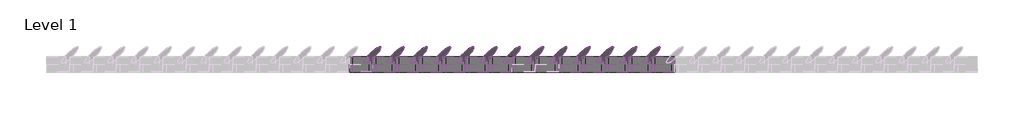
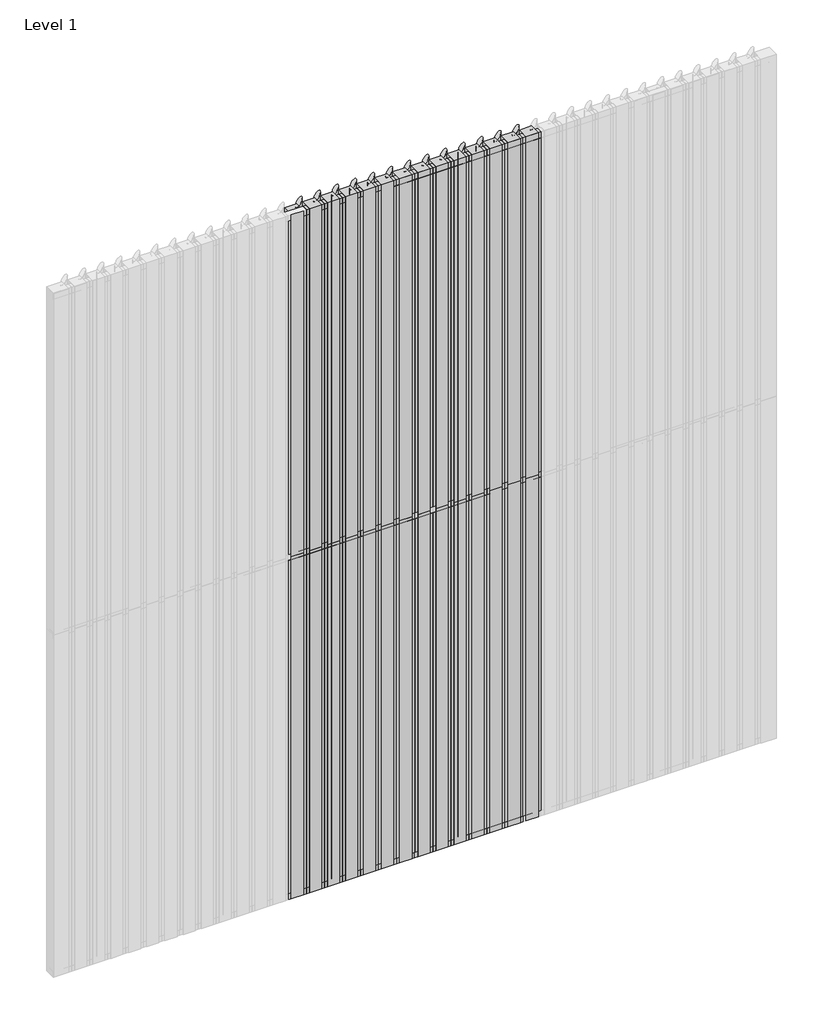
# One storey, part 2 of 3: 63 members, 56 plates.
"""IFC4 building model written with IfcOpenShell, lengths in millimetres."""

from ifc_helpers import new_model, si_unit, origin, place, context, project, spatial, transform, mapped, element, save
from components import rectangular_mullion_37c1fa86, rectangular_mullion_6265e8b1, rectangular_mullion_64cc6fdd, rectangular_mullion_eb4a5411, empty_system_panel_empty_f8daaecc, empty_system_panel_empty_64907904

model = new_model("IFC4")

# Units and contexts
model_context = context("Model", 3, world=origin())
ifc_project = project(units=[si_unit("LENGTHUNIT", "METRE", prefix="MILLI")], contexts=[model_context])

# Site, building, storey
site = spatial("IfcSite", under=ifc_project)
building = spatial("IfcBuilding", under=site)
storey = spatial("IfcBuildingStorey", under=building, Name="Level 1", Elevation=0.0)

# Members
placement = place(None, origin())
rectangular_mullion_shape = rectangular_mullion_37c1fa86(model_context)
element("IfcMember", 1, ObjectType="Rectangular Mullion : RSen_21_CWM_blade - 150 ellips - 45°_gen_duco projects", at=placement, inside=storey, context=model_context, shape_type="MappedRepresentation", body=[
    mapped(rectangular_mullion_shape, transform((3900.0, 3000.0, 0.0), x_axis=(-1.0, 0.0, 0.0), y_axis=(0.0, 1.0, 0.0), z_axis=(0.0, 0.0, -1.0))),
])
element("IfcMember", 2, ObjectType="Rectangular Mullion : RSen_21_CWM_blade - 150 ellips - 45°_gen_duco projects", at=placement, inside=storey, context=model_context, shape_type="MappedRepresentation", body=[
    mapped(rectangular_mullion_shape, transform((3750.0, 3000.0, 0.0), x_axis=(-1.0, 0.0, 0.0), y_axis=(0.0, 1.0, 0.0), z_axis=(0.0, 0.0, -1.0))),
])
element("IfcMember", 3, ObjectType="Rectangular Mullion : RSen_21_CWM_blade - 150 ellips - 45°_gen_duco projects", at=placement, inside=storey, context=model_context, shape_type="MappedRepresentation", body=[
    mapped(rectangular_mullion_shape, transform((3600.0, 3000.0, 0.0), x_axis=(-1.0, 0.0, 0.0), y_axis=(0.0, 1.0, 0.0), z_axis=(0.0, 0.0, -1.0))),
])
element("IfcMember", 4, ObjectType="Rectangular Mullion : RSen_21_CWM_blade - 150 ellips - 45°_gen_duco projects", at=placement, inside=storey, context=model_context, shape_type="MappedRepresentation", body=[
    mapped(rectangular_mullion_shape, transform((3450.0, 3000.0, 0.0), x_axis=(-1.0, 0.0, 0.0), y_axis=(0.0, 1.0, 0.0), z_axis=(0.0, 0.0, -1.0))),
])
element("IfcMember", 5, ObjectType="Rectangular Mullion : RSen_21_CWM_blade - 150 ellips - 45°_gen_duco projects", at=placement, inside=storey, context=model_context, shape_type="MappedRepresentation", body=[
    mapped(rectangular_mullion_shape, transform((3300.0, 3000.0, 0.0), x_axis=(-1.0, 0.0, 0.0), y_axis=(0.0, 1.0, 0.0), z_axis=(0.0, 0.0, -1.0))),
])
element("IfcMember", 6, ObjectType="Rectangular Mullion : RSen_21_CWM_blade - 150 ellips - 45°_gen_duco projects", at=placement, inside=storey, context=model_context, shape_type="MappedRepresentation", body=[
    mapped(rectangular_mullion_shape, transform((3150.0, 3000.0, 0.0), x_axis=(-1.0, 0.0, 0.0), y_axis=(0.0, 1.0, 0.0), z_axis=(0.0, 0.0, -1.0))),
])
element("IfcMember", 7, ObjectType="Rectangular Mullion : RSen_21_CWM_blade - 150 ellips - 45°_gen_duco projects", at=placement, inside=storey, context=model_context, shape_type="MappedRepresentation", body=[
    mapped(rectangular_mullion_shape, transform((3000.0, 3000.0, 0.0), x_axis=(-1.0, 0.0, 0.0), y_axis=(0.0, 1.0, 0.0), z_axis=(0.0, 0.0, -1.0))),
])
element("IfcMember", 8, ObjectType="Rectangular Mullion : RSen_21_CWM_blade - 150 ellips - 45°_gen_duco projects", at=placement, inside=storey, context=model_context, shape_type="MappedRepresentation", body=[
    mapped(rectangular_mullion_shape, transform((2850.0, 3000.0, 0.0), x_axis=(-1.0, 0.0, 0.0), y_axis=(0.0, 1.0, 0.0), z_axis=(0.0, 0.0, -1.0))),
])
element("IfcMember", 9, ObjectType="Rectangular Mullion : RSen_21_CWM_blade - 150 ellips - 45°_gen_duco projects", at=placement, inside=storey, context=model_context, shape_type="MappedRepresentation", body=[
    mapped(rectangular_mullion_shape, transform((2700.0, 3000.0, 0.0), x_axis=(-1.0, 0.0, 0.0), y_axis=(0.0, 1.0, 0.0), z_axis=(0.0, 0.0, -1.0))),
])
element("IfcMember", 10, ObjectType="Rectangular Mullion : RSen_21_CWM_blade - 150 ellips - 45°_gen_duco projects", at=placement, inside=storey, context=model_context, shape_type="MappedRepresentation", body=[
    mapped(rectangular_mullion_shape, transform((2550.0, 3000.0, 0.0), x_axis=(-1.0, 0.0, 0.0), y_axis=(0.0, 1.0, 0.0), z_axis=(0.0, 0.0, -1.0))),
])
element("IfcMember", 11, ObjectType="Rectangular Mullion : RSen_21_CWM_blade - 150 ellips - 45°_gen_duco projects", at=placement, inside=storey, context=model_context, shape_type="MappedRepresentation", body=[
    mapped(rectangular_mullion_shape, transform((2400.0, 3000.0, 0.0), x_axis=(-1.0, 0.0, 0.0), y_axis=(0.0, 1.0, 0.0), z_axis=(0.0, 0.0, -1.0))),
])
element("IfcMember", 12, ObjectType="Rectangular Mullion : RSen_21_CWM_blade - 150 ellips - 45°_gen_duco projects", at=placement, inside=storey, context=model_context, shape_type="MappedRepresentation", body=[
    mapped(rectangular_mullion_shape, transform((2250.0, 3000.0, 0.0), x_axis=(-1.0, 0.0, 0.0), y_axis=(0.0, 1.0, 0.0), z_axis=(0.0, 0.0, -1.0))),
])
element("IfcMember", 13, ObjectType="Rectangular Mullion : RSen_21_CWM_blade - 150 ellips - 45°_gen_duco projects", at=placement, inside=storey, context=model_context, shape_type="MappedRepresentation", body=[
    mapped(rectangular_mullion_shape, transform((2100.0, 3000.0, 0.0), x_axis=(-1.0, 0.0, 0.0), y_axis=(0.0, 1.0, 0.0), z_axis=(0.0, 0.0, -1.0))),
])
element("IfcMember", 14, ObjectType="Rectangular Mullion : RSen_21_CWM_blade - 150 ellips - 45°_gen_duco projects", at=placement, inside=storey, context=model_context, shape_type="MappedRepresentation", body=[
    mapped(rectangular_mullion_shape, transform((3900.0, 3000.0, 3000.0), x_axis=(-1.0, 0.0, 0.0), y_axis=(0.0, 1.0, 0.0), z_axis=(0.0, 0.0, -1.0))),
])
element("IfcMember", 15, ObjectType="Rectangular Mullion : RSen_21_CWM_blade - 150 ellips - 45°_gen_duco projects", at=placement, inside=storey, context=model_context, shape_type="MappedRepresentation", body=[
    mapped(rectangular_mullion_shape, transform((3750.0, 3000.0, 3000.0), x_axis=(-1.0, 0.0, 0.0), y_axis=(0.0, 1.0, 0.0), z_axis=(0.0, 0.0, -1.0))),
])
element("IfcMember", 16, ObjectType="Rectangular Mullion : RSen_21_CWM_blade - 150 ellips - 45°_gen_duco projects", at=placement, inside=storey, context=model_context, shape_type="MappedRepresentation", body=[
    mapped(rectangular_mullion_shape, transform((3600.0, 3000.0, 3000.0), x_axis=(-1.0, 0.0, 0.0), y_axis=(0.0, 1.0, 0.0), z_axis=(0.0, 0.0, -1.0))),
])
element("IfcMember", 17, ObjectType="Rectangular Mullion : RSen_21_CWM_blade - 150 ellips - 45°_gen_duco projects", at=placement, inside=storey, context=model_context, shape_type="MappedRepresentation", body=[
    mapped(rectangular_mullion_shape, transform((3450.0, 3000.0, 3000.0), x_axis=(-1.0, 0.0, 0.0), y_axis=(0.0, 1.0, 0.0), z_axis=(0.0, 0.0, -1.0))),
])
element("IfcMember", 18, ObjectType="Rectangular Mullion : RSen_21_CWM_blade - 150 ellips - 45°_gen_duco projects", at=placement, inside=storey, context=model_context, shape_type="MappedRepresentation", body=[
    mapped(rectangular_mullion_shape, transform((3300.0, 3000.0, 3000.0), x_axis=(-1.0, 0.0, 0.0), y_axis=(0.0, 1.0, 0.0), z_axis=(0.0, 0.0, -1.0))),
])
element("IfcMember", 19, ObjectType="Rectangular Mullion : RSen_21_CWM_blade - 150 ellips - 45°_gen_duco projects", at=placement, inside=storey, context=model_context, shape_type="MappedRepresentation", body=[
    mapped(rectangular_mullion_shape, transform((3150.0, 3000.0, 3000.0), x_axis=(-1.0, 0.0, 0.0), y_axis=(0.0, 1.0, 0.0), z_axis=(0.0, 0.0, -1.0))),
])
element("IfcMember", 20, ObjectType="Rectangular Mullion : RSen_21_CWM_blade - 150 ellips - 45°_gen_duco projects", at=placement, inside=storey, context=model_context, shape_type="MappedRepresentation", body=[
    mapped(rectangular_mullion_shape, transform((3000.0, 3000.0, 3000.0), x_axis=(-1.0, 0.0, 0.0), y_axis=(0.0, 1.0, 0.0), z_axis=(0.0, 0.0, -1.0))),
])
element("IfcMember", 21, ObjectType="Rectangular Mullion : RSen_21_CWM_blade - 150 ellips - 45°_gen_duco projects", at=placement, inside=storey, context=model_context, shape_type="MappedRepresentation", body=[
    mapped(rectangular_mullion_shape, transform((2850.0, 3000.0, 3000.0), x_axis=(-1.0, 0.0, 0.0), y_axis=(0.0, 1.0, 0.0), z_axis=(0.0, 0.0, -1.0))),
])
element("IfcMember", 22, ObjectType="Rectangular Mullion : RSen_21_CWM_blade - 150 ellips - 45°_gen_duco projects", at=placement, inside=storey, context=model_context, shape_type="MappedRepresentation", body=[
    mapped(rectangular_mullion_shape, transform((2700.0, 3000.0, 3000.0), x_axis=(-1.0, 0.0, 0.0), y_axis=(0.0, 1.0, 0.0), z_axis=(0.0, 0.0, -1.0))),
])
element("IfcMember", 23, ObjectType="Rectangular Mullion : RSen_21_CWM_blade - 150 ellips - 45°_gen_duco projects", at=placement, inside=storey, context=model_context, shape_type="MappedRepresentation", body=[
    mapped(rectangular_mullion_shape, transform((2550.0, 3000.0, 3000.0), x_axis=(-1.0, 0.0, 0.0), y_axis=(0.0, 1.0, 0.0), z_axis=(0.0, 0.0, -1.0))),
])
element("IfcMember", 24, ObjectType="Rectangular Mullion : RSen_21_CWM_blade - 150 ellips - 45°_gen_duco projects", at=placement, inside=storey, context=model_context, shape_type="MappedRepresentation", body=[
    mapped(rectangular_mullion_shape, transform((2400.0, 3000.0, 3000.0), x_axis=(-1.0, 0.0, 0.0), y_axis=(0.0, 1.0, 0.0), z_axis=(0.0, 0.0, -1.0))),
])
element("IfcMember", 25, ObjectType="Rectangular Mullion : RSen_21_CWM_blade - 150 ellips - 45°_gen_duco projects", at=placement, inside=storey, context=model_context, shape_type="MappedRepresentation", body=[
    mapped(rectangular_mullion_shape, transform((2250.0, 3000.0, 3000.0), x_axis=(-1.0, 0.0, 0.0), y_axis=(0.0, 1.0, 0.0), z_axis=(0.0, 0.0, -1.0))),
])
element("IfcMember", 26, ObjectType="Rectangular Mullion : RSen_21_CWM_blade - 150 ellips - 45°_gen_duco projects", at=placement, inside=storey, context=model_context, shape_type="MappedRepresentation", body=[
    mapped(rectangular_mullion_shape, transform((2100.0, 3000.0, 3000.0), x_axis=(-1.0, 0.0, 0.0), y_axis=(0.0, 1.0, 0.0), z_axis=(0.0, 0.0, -1.0))),
])
rectangular_mullion_2_shape = rectangular_mullion_6265e8b1(model_context)
element("IfcMember", 27, ObjectType="Rectangular Mullion : RSen_21_CWM_support profile 50x50 - left_gen_duco projects", at=placement, inside=storey, context=model_context, shape_type="MappedRepresentation", body=[
    mapped(rectangular_mullion_2_shape, transform((3900.0, 3000.0, 6000.0), x_axis=(0.0, 0.0, 1.0), y_axis=(0.0, 1.0, 0.0), z_axis=(-1.0, 0.0, 0.0))),
])
element("IfcMember", 28, ObjectType="Rectangular Mullion : RSen_21_CWM_support profile 50x50 - left_gen_duco projects", at=placement, inside=storey, context=model_context, shape_type="MappedRepresentation", body=[
    mapped(rectangular_mullion_2_shape, transform((3750.0, 3000.0, 6000.0), x_axis=(0.0, 0.0, 1.0), y_axis=(0.0, 1.0, 0.0), z_axis=(-1.0, 0.0, 0.0))),
])
element("IfcMember", 29, ObjectType="Rectangular Mullion : RSen_21_CWM_support profile 50x50 - left_gen_duco projects", at=placement, inside=storey, context=model_context, shape_type="MappedRepresentation", body=[
    mapped(rectangular_mullion_2_shape, transform((3600.0, 3000.0, 6000.0), x_axis=(0.0, 0.0, 1.0), y_axis=(0.0, 1.0, 0.0), z_axis=(-1.0, 0.0, 0.0))),
])
element("IfcMember", 30, ObjectType="Rectangular Mullion : RSen_21_CWM_support profile 50x50 - left_gen_duco projects", at=placement, inside=storey, context=model_context, shape_type="MappedRepresentation", body=[
    mapped(rectangular_mullion_2_shape, transform((3450.0, 3000.0, 6000.0), x_axis=(0.0, 0.0, 1.0), y_axis=(0.0, 1.0, 0.0), z_axis=(-1.0, 0.0, 0.0))),
])
element("IfcMember", 31, ObjectType="Rectangular Mullion : RSen_21_CWM_support profile 50x50 - left_gen_duco projects", at=placement, inside=storey, context=model_context, shape_type="MappedRepresentation", body=[
    mapped(rectangular_mullion_2_shape, transform((3300.0, 3000.0, 6000.0), x_axis=(0.0, 0.0, 1.0), y_axis=(0.0, 1.0, 0.0), z_axis=(-1.0, 0.0, 0.0))),
])
element("IfcMember", 32, ObjectType="Rectangular Mullion : RSen_21_CWM_support profile 50x50 - left_gen_duco projects", at=placement, inside=storey, context=model_context, shape_type="MappedRepresentation", body=[
    mapped(rectangular_mullion_2_shape, transform((3150.0, 3000.0, 6000.0), x_axis=(0.0, 0.0, 1.0), y_axis=(0.0, 1.0, 0.0), z_axis=(-1.0, 0.0, 0.0))),
])
element("IfcMember", 33, ObjectType="Rectangular Mullion : RSen_21_CWM_support profile 50x50 - left_gen_duco projects", at=placement, inside=storey, context=model_context, shape_type="MappedRepresentation", body=[
    mapped(rectangular_mullion_2_shape, transform((3000.0, 3000.0, 6000.0), x_axis=(0.0, 0.0, 1.0), y_axis=(0.0, 1.0, 0.0), z_axis=(-1.0, 0.0, 0.0))),
])
element("IfcMember", 34, ObjectType="Rectangular Mullion : RSen_21_CWM_support profile 50x50 - left_gen_duco projects", at=placement, inside=storey, context=model_context, shape_type="MappedRepresentation", body=[
    mapped(rectangular_mullion_2_shape, transform((2850.0, 3000.0, 6000.0), x_axis=(0.0, 0.0, 1.0), y_axis=(0.0, 1.0, 0.0), z_axis=(-1.0, 0.0, 0.0))),
])
element("IfcMember", 35, ObjectType="Rectangular Mullion : RSen_21_CWM_support profile 50x50 - left_gen_duco projects", at=placement, inside=storey, context=model_context, shape_type="MappedRepresentation", body=[
    mapped(rectangular_mullion_2_shape, transform((2700.0, 3000.0, 6000.0), x_axis=(0.0, 0.0, 1.0), y_axis=(0.0, 1.0, 0.0), z_axis=(-1.0, 0.0, 0.0))),
])
element("IfcMember", 36, ObjectType="Rectangular Mullion : RSen_21_CWM_support profile 50x50 - left_gen_duco projects", at=placement, inside=storey, context=model_context, shape_type="MappedRepresentation", body=[
    mapped(rectangular_mullion_2_shape, transform((2550.0, 3000.0, 6000.0), x_axis=(0.0, 0.0, 1.0), y_axis=(0.0, 1.0, 0.0), z_axis=(-1.0, 0.0, 0.0))),
])
element("IfcMember", 37, ObjectType="Rectangular Mullion : RSen_21_CWM_support profile 50x50 - left_gen_duco projects", at=placement, inside=storey, context=model_context, shape_type="MappedRepresentation", body=[
    mapped(rectangular_mullion_2_shape, transform((2400.0, 3000.0, 6000.0), x_axis=(0.0, 0.0, 1.0), y_axis=(0.0, 1.0, 0.0), z_axis=(-1.0, 0.0, 0.0))),
])
element("IfcMember", 38, ObjectType="Rectangular Mullion : RSen_21_CWM_support profile 50x50 - left_gen_duco projects", at=placement, inside=storey, context=model_context, shape_type="MappedRepresentation", body=[
    mapped(rectangular_mullion_2_shape, transform((2250.0, 3000.0, 6000.0), x_axis=(0.0, 0.0, 1.0), y_axis=(0.0, 1.0, 0.0), z_axis=(-1.0, 0.0, 0.0))),
])
element("IfcMember", 39, ObjectType="Rectangular Mullion : RSen_21_CWM_support profile 50x50 - left_gen_duco projects", at=placement, inside=storey, context=model_context, shape_type="MappedRepresentation", body=[
    mapped(rectangular_mullion_2_shape, transform((2100.0, 3000.0, 6000.0), x_axis=(0.0, 0.0, 1.0), y_axis=(0.0, 1.0, 0.0), z_axis=(-1.0, 0.0, 0.0))),
])
rectangular_mullion_3_shape = rectangular_mullion_64cc6fdd(model_context)
element("IfcMember", 40, ObjectType="Rectangular Mullion : RSen_21_CWM_support profile 50x50 - right_gen_duco projects", at=placement, inside=storey, context=model_context, shape_type="MappedRepresentation", body=[
    mapped(rectangular_mullion_3_shape, transform((3900.0, 3000.0, 0.0), x_axis=(0.0, 0.0, -1.0), y_axis=(0.0, 1.0, 0.0), z_axis=(1.0, 0.0, 0.0))),
])
element("IfcMember", 41, ObjectType="Rectangular Mullion : RSen_21_CWM_support profile 50x50 - right_gen_duco projects", at=placement, inside=storey, context=model_context, shape_type="MappedRepresentation", body=[
    mapped(rectangular_mullion_3_shape, transform((3750.0, 3000.0, 0.0), x_axis=(0.0, 0.0, -1.0), y_axis=(0.0, 1.0, 0.0), z_axis=(1.0, 0.0, 0.0))),
])
element("IfcMember", 42, ObjectType="Rectangular Mullion : RSen_21_CWM_support profile 50x50 - right_gen_duco projects", at=placement, inside=storey, context=model_context, shape_type="MappedRepresentation", body=[
    mapped(rectangular_mullion_3_shape, transform((3600.0, 3000.0, 0.0), x_axis=(0.0, 0.0, -1.0), y_axis=(0.0, 1.0, 0.0), z_axis=(1.0, 0.0, 0.0))),
])
element("IfcMember", 43, ObjectType="Rectangular Mullion : RSen_21_CWM_support profile 50x50 - right_gen_duco projects", at=placement, inside=storey, context=model_context, shape_type="MappedRepresentation", body=[
    mapped(rectangular_mullion_3_shape, transform((3450.0, 3000.0, 0.0), x_axis=(0.0, 0.0, -1.0), y_axis=(0.0, 1.0, 0.0), z_axis=(1.0, 0.0, 0.0))),
])
element("IfcMember", 44, ObjectType="Rectangular Mullion : RSen_21_CWM_support profile 50x50 - right_gen_duco projects", at=placement, inside=storey, context=model_context, shape_type="MappedRepresentation", body=[
    mapped(rectangular_mullion_3_shape, transform((3300.0, 3000.0, 0.0), x_axis=(0.0, 0.0, -1.0), y_axis=(0.0, 1.0, 0.0), z_axis=(1.0, 0.0, 0.0))),
])
element("IfcMember", 45, ObjectType="Rectangular Mullion : RSen_21_CWM_support profile 50x50 - right_gen_duco projects", at=placement, inside=storey, context=model_context, shape_type="MappedRepresentation", body=[
    mapped(rectangular_mullion_3_shape, transform((3150.0, 3000.0, 0.0), x_axis=(0.0, 0.0, -1.0), y_axis=(0.0, 1.0, 0.0), z_axis=(1.0, 0.0, 0.0))),
])
element("IfcMember", 46, ObjectType="Rectangular Mullion : RSen_21_CWM_support profile 50x50 - right_gen_duco projects", at=placement, inside=storey, context=model_context, shape_type="MappedRepresentation", body=[
    mapped(rectangular_mullion_3_shape, transform((3000.0, 3000.0, 0.0), x_axis=(0.0, 0.0, -1.0), y_axis=(0.0, 1.0, 0.0), z_axis=(1.0, 0.0, 0.0))),
])
element("IfcMember", 47, ObjectType="Rectangular Mullion : RSen_21_CWM_support profile 50x50 - right_gen_duco projects", at=placement, inside=storey, context=model_context, shape_type="MappedRepresentation", body=[
    mapped(rectangular_mullion_3_shape, transform((2850.0, 3000.0, 0.0), x_axis=(0.0, 0.0, -1.0), y_axis=(0.0, 1.0, 0.0), z_axis=(1.0, 0.0, 0.0))),
])
element("IfcMember", 48, ObjectType="Rectangular Mullion : RSen_21_CWM_support profile 50x50 - right_gen_duco projects", at=placement, inside=storey, context=model_context, shape_type="MappedRepresentation", body=[
    mapped(rectangular_mullion_3_shape, transform((2700.0, 3000.0, 0.0), x_axis=(0.0, 0.0, -1.0), y_axis=(0.0, 1.0, 0.0), z_axis=(1.0, 0.0, 0.0))),
])
element("IfcMember", 49, ObjectType="Rectangular Mullion : RSen_21_CWM_support profile 50x50 - right_gen_duco projects", at=placement, inside=storey, context=model_context, shape_type="MappedRepresentation", body=[
    mapped(rectangular_mullion_3_shape, transform((2550.0, 3000.0, 0.0), x_axis=(0.0, 0.0, -1.0), y_axis=(0.0, 1.0, 0.0), z_axis=(1.0, 0.0, 0.0))),
])
element("IfcMember", 50, ObjectType="Rectangular Mullion : RSen_21_CWM_support profile 50x50 - right_gen_duco projects", at=placement, inside=storey, context=model_context, shape_type="MappedRepresentation", body=[
    mapped(rectangular_mullion_3_shape, transform((2400.0, 3000.0, 0.0), x_axis=(0.0, 0.0, -1.0), y_axis=(0.0, 1.0, 0.0), z_axis=(1.0, 0.0, 0.0))),
])
element("IfcMember", 51, ObjectType="Rectangular Mullion : RSen_21_CWM_support profile 50x50 - right_gen_duco projects", at=placement, inside=storey, context=model_context, shape_type="MappedRepresentation", body=[
    mapped(rectangular_mullion_3_shape, transform((2250.0, 3000.0, 0.0), x_axis=(0.0, 0.0, -1.0), y_axis=(0.0, 1.0, 0.0), z_axis=(1.0, 0.0, 0.0))),
])
element("IfcMember", 52, ObjectType="Rectangular Mullion : RSen_21_CWM_support profile 50x50 - right_gen_duco projects", at=placement, inside=storey, context=model_context, shape_type="MappedRepresentation", body=[
    mapped(rectangular_mullion_3_shape, transform((2100.0, 3000.0, 0.0), x_axis=(0.0, 0.0, -1.0), y_axis=(0.0, 1.0, 0.0), z_axis=(1.0, 0.0, 0.0))),
])
rectangular_mullion_4_shape = rectangular_mullion_eb4a5411(model_context)
element("IfcMember", 53, ObjectType="Rectangular Mullion : RSen_21_CWM_support profile 50x50_gen_duco projects", at=placement, inside=storey, context=model_context, shape_type="MappedRepresentation", body=[
    mapped(rectangular_mullion_4_shape, transform((3900.0, 3000.0, 3000.0), x_axis=(0.0, 0.0, 1.0), y_axis=(0.0, 1.0, 0.0), z_axis=(-1.0, 0.0, 0.0))),
])
element("IfcMember", 54, ObjectType="Rectangular Mullion : RSen_21_CWM_support profile 50x50_gen_duco projects", at=placement, inside=storey, context=model_context, shape_type="MappedRepresentation", body=[
    mapped(rectangular_mullion_4_shape, transform((3750.0, 3000.0, 3000.0), x_axis=(0.0, 0.0, 1.0), y_axis=(0.0, 1.0, 0.0), z_axis=(-1.0, 0.0, 0.0))),
])
element("IfcMember", 55, ObjectType="Rectangular Mullion : RSen_21_CWM_support profile 50x50_gen_duco projects", at=placement, inside=storey, context=model_context, shape_type="MappedRepresentation", body=[
    mapped(rectangular_mullion_4_shape, transform((3600.0, 3000.0, 3000.0), x_axis=(0.0, 0.0, 1.0), y_axis=(0.0, 1.0, 0.0), z_axis=(-1.0, 0.0, 0.0))),
])
element("IfcMember", 56, ObjectType="Rectangular Mullion : RSen_21_CWM_support profile 50x50_gen_duco projects", at=placement, inside=storey, context=model_context, shape_type="MappedRepresentation", body=[
    mapped(rectangular_mullion_4_shape, transform((3450.0, 3000.0, 3000.0), x_axis=(0.0, 0.0, 1.0), y_axis=(0.0, 1.0, 0.0), z_axis=(-1.0, 0.0, 0.0))),
])
element("IfcMember", 57, ObjectType="Rectangular Mullion : RSen_21_CWM_support profile 50x50_gen_duco projects", at=placement, inside=storey, context=model_context, shape_type="MappedRepresentation", body=[
    mapped(rectangular_mullion_4_shape, transform((3300.0, 3000.0, 3000.0), x_axis=(0.0, 0.0, 1.0), y_axis=(0.0, 1.0, 0.0), z_axis=(-1.0, 0.0, 0.0))),
])
element("IfcMember", 58, ObjectType="Rectangular Mullion : RSen_21_CWM_support profile 50x50_gen_duco projects", at=placement, inside=storey, context=model_context, shape_type="MappedRepresentation", body=[
    mapped(rectangular_mullion_4_shape, transform((2850.0, 3000.0, 3000.0), x_axis=(0.0, 0.0, 1.0), y_axis=(0.0, 1.0, 0.0), z_axis=(-1.0, 0.0, 0.0))),
])
element("IfcMember", 59, ObjectType="Rectangular Mullion : RSen_21_CWM_support profile 50x50_gen_duco projects", at=placement, inside=storey, context=model_context, shape_type="MappedRepresentation", body=[
    mapped(rectangular_mullion_4_shape, transform((2700.0, 3000.0, 3000.0), x_axis=(0.0, 0.0, 1.0), y_axis=(0.0, 1.0, 0.0), z_axis=(-1.0, 0.0, 0.0))),
])
element("IfcMember", 60, ObjectType="Rectangular Mullion : RSen_21_CWM_support profile 50x50_gen_duco projects", at=placement, inside=storey, context=model_context, shape_type="MappedRepresentation", body=[
    mapped(rectangular_mullion_4_shape, transform((2550.0, 3000.0, 3000.0), x_axis=(0.0, 0.0, 1.0), y_axis=(0.0, 1.0, 0.0), z_axis=(-1.0, 0.0, 0.0))),
])
element("IfcMember", 61, ObjectType="Rectangular Mullion : RSen_21_CWM_support profile 50x50_gen_duco projects", at=placement, inside=storey, context=model_context, shape_type="MappedRepresentation", body=[
    mapped(rectangular_mullion_4_shape, transform((2400.0, 3000.0, 3000.0), x_axis=(0.0, 0.0, 1.0), y_axis=(0.0, 1.0, 0.0), z_axis=(-1.0, 0.0, 0.0))),
])
element("IfcMember", 62, ObjectType="Rectangular Mullion : RSen_21_CWM_support profile 50x50_gen_duco projects", at=placement, inside=storey, context=model_context, shape_type="MappedRepresentation", body=[
    mapped(rectangular_mullion_4_shape, transform((2250.0, 3000.0, 3000.0), x_axis=(0.0, 0.0, 1.0), y_axis=(0.0, 1.0, 0.0), z_axis=(-1.0, 0.0, 0.0))),
])
element("IfcMember", 63, ObjectType="Rectangular Mullion : RSen_21_CWM_support profile 50x50_gen_duco projects", at=placement, inside=storey, context=model_context, shape_type="MappedRepresentation", body=[
    mapped(rectangular_mullion_4_shape, transform((2100.0, 3000.0, 3000.0), x_axis=(0.0, 0.0, 1.0), y_axis=(0.0, 1.0, 0.0), z_axis=(-1.0, 0.0, 0.0))),
])

# Plates
empty_system_panel_empty_shape = empty_system_panel_empty_f8daaecc(model_context)
element("IfcPlate", 64, ObjectType="Empty System Panel : Empty", at=placement, inside=storey, context=model_context, shape_type="MappedRepresentation", body=[
    mapped(empty_system_panel_empty_shape, transform((3975.0, 3000.0, 0.0), x_axis=(-1.0, 0.0, 0.0), y_axis=(0.0, -1.0, 0.0), z_axis=(0.0, 0.0, 1.0))),
])
element("IfcPlate", 65, ObjectType="Empty System Panel : Empty", at=placement, inside=storey, context=model_context, shape_type="MappedRepresentation", body=[
    mapped(empty_system_panel_empty_shape, transform((3825.0, 3000.0, 0.0), x_axis=(-1.0, 0.0, 0.0), y_axis=(0.0, -1.0, 0.0), z_axis=(0.0, 0.0, 1.0))),
])
element("IfcPlate", 66, ObjectType="Empty System Panel : Empty", at=placement, inside=storey, context=model_context, shape_type="MappedRepresentation", body=[
    mapped(empty_system_panel_empty_shape, transform((3675.0, 3000.0, 0.0), x_axis=(-1.0, 0.0, 0.0), y_axis=(0.0, -1.0, 0.0), z_axis=(0.0, 0.0, 1.0))),
])
element("IfcPlate", 67, ObjectType="Empty System Panel : Empty", at=placement, inside=storey, context=model_context, shape_type="MappedRepresentation", body=[
    mapped(empty_system_panel_empty_shape, transform((3525.0, 3000.0, 0.0), x_axis=(-1.0, 0.0, 0.0), y_axis=(0.0, -1.0, 0.0), z_axis=(0.0, 0.0, 1.0))),
])
element("IfcPlate", 68, ObjectType="Empty System Panel : Empty", at=placement, inside=storey, context=model_context, shape_type="MappedRepresentation", body=[
    mapped(empty_system_panel_empty_shape, transform((3375.0, 3000.0, 0.0), x_axis=(-1.0, 0.0, 0.0), y_axis=(0.0, -1.0, 0.0), z_axis=(0.0, 0.0, 1.0))),
])
element("IfcPlate", 69, ObjectType="Empty System Panel : Empty", at=placement, inside=storey, context=model_context, shape_type="MappedRepresentation", body=[
    mapped(empty_system_panel_empty_shape, transform((3225.0, 3000.0, 0.0), x_axis=(-1.0, 0.0, 0.0), y_axis=(0.0, -1.0, 0.0), z_axis=(0.0, 0.0, 1.0))),
])
element("IfcPlate", 70, ObjectType="Empty System Panel : Empty", at=placement, inside=storey, context=model_context, shape_type="MappedRepresentation", body=[
    mapped(empty_system_panel_empty_shape, transform((3075.0, 3000.0, 0.0), x_axis=(-1.0, 0.0, 0.0), y_axis=(0.0, -1.0, 0.0), z_axis=(0.0, 0.0, 1.0))),
])
element("IfcPlate", 71, ObjectType="Empty System Panel : Empty", at=placement, inside=storey, context=model_context, shape_type="MappedRepresentation", body=[
    mapped(empty_system_panel_empty_shape, transform((2925.0, 3000.0, 0.0), x_axis=(-1.0, 0.0, 0.0), y_axis=(0.0, -1.0, 0.0), z_axis=(0.0, 0.0, 1.0))),
])
element("IfcPlate", 72, ObjectType="Empty System Panel : Empty", at=placement, inside=storey, context=model_context, shape_type="MappedRepresentation", body=[
    mapped(empty_system_panel_empty_shape, transform((2775.0, 3000.0, 0.0), x_axis=(-1.0, 0.0, 0.0), y_axis=(0.0, -1.0, 0.0), z_axis=(0.0, 0.0, 1.0))),
])
element("IfcPlate", 73, ObjectType="Empty System Panel : Empty", at=placement, inside=storey, context=model_context, shape_type="MappedRepresentation", body=[
    mapped(empty_system_panel_empty_shape, transform((2625.0, 3000.0, 0.0), x_axis=(-1.0, 0.0, 0.0), y_axis=(0.0, -1.0, 0.0), z_axis=(0.0, 0.0, 1.0))),
])
element("IfcPlate", 74, ObjectType="Empty System Panel : Empty", at=placement, inside=storey, context=model_context, shape_type="MappedRepresentation", body=[
    mapped(empty_system_panel_empty_shape, transform((2475.0, 3000.0, 0.0), x_axis=(-1.0, 0.0, 0.0), y_axis=(0.0, -1.0, 0.0), z_axis=(0.0, 0.0, 1.0))),
])
element("IfcPlate", 75, ObjectType="Empty System Panel : Empty", at=placement, inside=storey, context=model_context, shape_type="MappedRepresentation", body=[
    mapped(empty_system_panel_empty_shape, transform((2325.0, 3000.0, 0.0), x_axis=(-1.0, 0.0, 0.0), y_axis=(0.0, -1.0, 0.0), z_axis=(0.0, 0.0, 1.0))),
])
element("IfcPlate", 76, ObjectType="Empty System Panel : Empty", at=placement, inside=storey, context=model_context, shape_type="MappedRepresentation", body=[
    mapped(empty_system_panel_empty_shape, transform((2175.0, 3000.0, 0.0), x_axis=(-1.0, 0.0, 0.0), y_axis=(0.0, -1.0, 0.0), z_axis=(0.0, 0.0, 1.0))),
])
element("IfcPlate", 77, ObjectType="Empty System Panel : Empty", at=placement, inside=storey, context=model_context, shape_type="MappedRepresentation", body=[
    mapped(empty_system_panel_empty_shape, transform((2025.0, 3000.0, 0.0), x_axis=(-1.0, 0.0, 0.0), y_axis=(0.0, -1.0, 0.0), z_axis=(0.0, 0.0, 1.0))),
])
element("IfcPlate", 78, ObjectType="Empty System Panel : Empty", at=placement, inside=storey, context=model_context, shape_type="MappedRepresentation", body=[
    mapped(empty_system_panel_empty_shape, transform((3975.0, 3000.0, 3000.0), x_axis=(-1.0, 0.0, 0.0), y_axis=(0.0, -1.0, 0.0), z_axis=(0.0, 0.0, 1.0))),
])
element("IfcPlate", 79, ObjectType="Empty System Panel : Empty", at=placement, inside=storey, context=model_context, shape_type="MappedRepresentation", body=[
    mapped(empty_system_panel_empty_shape, transform((3825.0, 3000.0, 3000.0), x_axis=(-1.0, 0.0, 0.0), y_axis=(0.0, -1.0, 0.0), z_axis=(0.0, 0.0, 1.0))),
])
element("IfcPlate", 80, ObjectType="Empty System Panel : Empty", at=placement, inside=storey, context=model_context, shape_type="MappedRepresentation", body=[
    mapped(empty_system_panel_empty_shape, transform((3675.0, 3000.0, 3000.0), x_axis=(-1.0, 0.0, 0.0), y_axis=(0.0, -1.0, 0.0), z_axis=(0.0, 0.0, 1.0))),
])
element("IfcPlate", 81, ObjectType="Empty System Panel : Empty", at=placement, inside=storey, context=model_context, shape_type="MappedRepresentation", body=[
    mapped(empty_system_panel_empty_shape, transform((3525.0, 3000.0, 3000.0), x_axis=(-1.0, 0.0, 0.0), y_axis=(0.0, -1.0, 0.0), z_axis=(0.0, 0.0, 1.0))),
])
element("IfcPlate", 82, ObjectType="Empty System Panel : Empty", at=placement, inside=storey, context=model_context, shape_type="MappedRepresentation", body=[
    mapped(empty_system_panel_empty_shape, transform((3375.0, 3000.0, 3000.0), x_axis=(-1.0, 0.0, 0.0), y_axis=(0.0, -1.0, 0.0), z_axis=(0.0, 0.0, 1.0))),
])
element("IfcPlate", 83, ObjectType="Empty System Panel : Empty", at=placement, inside=storey, context=model_context, shape_type="MappedRepresentation", body=[
    mapped(empty_system_panel_empty_shape, transform((3225.0, 3000.0, 3000.0), x_axis=(-1.0, 0.0, 0.0), y_axis=(0.0, -1.0, 0.0), z_axis=(0.0, 0.0, 1.0))),
])
element("IfcPlate", 84, ObjectType="Empty System Panel : Empty", at=placement, inside=storey, context=model_context, shape_type="MappedRepresentation", body=[
    mapped(empty_system_panel_empty_shape, transform((3075.0, 3000.0, 3000.0), x_axis=(-1.0, 0.0, 0.0), y_axis=(0.0, -1.0, 0.0), z_axis=(0.0, 0.0, 1.0))),
])
element("IfcPlate", 85, ObjectType="Empty System Panel : Empty", at=placement, inside=storey, context=model_context, shape_type="MappedRepresentation", body=[
    mapped(empty_system_panel_empty_shape, transform((2925.0, 3000.0, 3000.0), x_axis=(-1.0, 0.0, 0.0), y_axis=(0.0, -1.0, 0.0), z_axis=(0.0, 0.0, 1.0))),
])
element("IfcPlate", 86, ObjectType="Empty System Panel : Empty", at=placement, inside=storey, context=model_context, shape_type="MappedRepresentation", body=[
    mapped(empty_system_panel_empty_shape, transform((2775.0, 3000.0, 3000.0), x_axis=(-1.0, 0.0, 0.0), y_axis=(0.0, -1.0, 0.0), z_axis=(0.0, 0.0, 1.0))),
])
element("IfcPlate", 87, ObjectType="Empty System Panel : Empty", at=placement, inside=storey, context=model_context, shape_type="MappedRepresentation", body=[
    mapped(empty_system_panel_empty_shape, transform((2625.0, 3000.0, 3000.0), x_axis=(-1.0, 0.0, 0.0), y_axis=(0.0, -1.0, 0.0), z_axis=(0.0, 0.0, 1.0))),
])
element("IfcPlate", 88, ObjectType="Empty System Panel : Empty", at=placement, inside=storey, context=model_context, shape_type="MappedRepresentation", body=[
    mapped(empty_system_panel_empty_shape, transform((2475.0, 3000.0, 3000.0), x_axis=(-1.0, 0.0, 0.0), y_axis=(0.0, -1.0, 0.0), z_axis=(0.0, 0.0, 1.0))),
])
element("IfcPlate", 89, ObjectType="Empty System Panel : Empty", at=placement, inside=storey, context=model_context, shape_type="MappedRepresentation", body=[
    mapped(empty_system_panel_empty_shape, transform((2325.0, 3000.0, 3000.0), x_axis=(-1.0, 0.0, 0.0), y_axis=(0.0, -1.0, 0.0), z_axis=(0.0, 0.0, 1.0))),
])
element("IfcPlate", 90, ObjectType="Empty System Panel : Empty", at=placement, inside=storey, context=model_context, shape_type="MappedRepresentation", body=[
    mapped(empty_system_panel_empty_shape, transform((2175.0, 3000.0, 3000.0), x_axis=(-1.0, 0.0, 0.0), y_axis=(0.0, -1.0, 0.0), z_axis=(0.0, 0.0, 1.0))),
])
element("IfcPlate", 91, ObjectType="Empty System Panel : Empty", at=placement, inside=storey, context=model_context, shape_type="MappedRepresentation", body=[
    mapped(empty_system_panel_empty_shape, transform((2025.0, 3000.0, 3000.0), x_axis=(-1.0, 0.0, 0.0), y_axis=(0.0, -1.0, 0.0), z_axis=(0.0, 0.0, 1.0))),
])
empty_system_panel_empty_2_shape = empty_system_panel_empty_64907904(model_context)
element("IfcPlate", 92, ObjectType="Empty System Panel : Empty", at=placement, inside=storey, context=model_context, shape_type="MappedRepresentation", body=[
    mapped(empty_system_panel_empty_2_shape, transform((3975.0, 3000.0, 50.0), x_axis=(-1.0, 0.0, 0.0), y_axis=(0.0, -1.0, 0.0), z_axis=(0.0, 0.0, 1.0))),
])
element("IfcPlate", 93, ObjectType="Empty System Panel : Empty", at=placement, inside=storey, context=model_context, shape_type="MappedRepresentation", body=[
    mapped(empty_system_panel_empty_2_shape, transform((3825.0, 3000.0, 50.0), x_axis=(-1.0, 0.0, 0.0), y_axis=(0.0, -1.0, 0.0), z_axis=(0.0, 0.0, 1.0))),
])
element("IfcPlate", 94, ObjectType="Empty System Panel : Empty", at=placement, inside=storey, context=model_context, shape_type="MappedRepresentation", body=[
    mapped(empty_system_panel_empty_2_shape, transform((3675.0, 3000.0, 50.0), x_axis=(-1.0, 0.0, 0.0), y_axis=(0.0, -1.0, 0.0), z_axis=(0.0, 0.0, 1.0))),
])
element("IfcPlate", 95, ObjectType="Empty System Panel : Empty", at=placement, inside=storey, context=model_context, shape_type="MappedRepresentation", body=[
    mapped(empty_system_panel_empty_2_shape, transform((3525.0, 3000.0, 50.0), x_axis=(-1.0, 0.0, 0.0), y_axis=(0.0, -1.0, 0.0), z_axis=(0.0, 0.0, 1.0))),
])
element("IfcPlate", 96, ObjectType="Empty System Panel : Empty", at=placement, inside=storey, context=model_context, shape_type="MappedRepresentation", body=[
    mapped(empty_system_panel_empty_2_shape, transform((3375.0, 3000.0, 50.0), x_axis=(-1.0, 0.0, 0.0), y_axis=(0.0, -1.0, 0.0), z_axis=(0.0, 0.0, 1.0))),
])
element("IfcPlate", 97, ObjectType="Empty System Panel : Empty", at=placement, inside=storey, context=model_context, shape_type="MappedRepresentation", body=[
    mapped(empty_system_panel_empty_2_shape, transform((3225.0, 3000.0, 50.0), x_axis=(-1.0, 0.0, 0.0), y_axis=(0.0, -1.0, 0.0), z_axis=(0.0, 0.0, 1.0))),
])
element("IfcPlate", 98, ObjectType="Empty System Panel : Empty", at=placement, inside=storey, context=model_context, shape_type="MappedRepresentation", body=[
    mapped(empty_system_panel_empty_2_shape, transform((3075.0, 3000.0, 50.0), x_axis=(-1.0, 0.0, 0.0), y_axis=(0.0, -1.0, 0.0), z_axis=(0.0, 0.0, 1.0))),
])
element("IfcPlate", 99, ObjectType="Empty System Panel : Empty", at=placement, inside=storey, context=model_context, shape_type="MappedRepresentation", body=[
    mapped(empty_system_panel_empty_2_shape, transform((2925.0, 3000.0, 50.0), x_axis=(-1.0, 0.0, 0.0), y_axis=(0.0, -1.0, 0.0), z_axis=(0.0, 0.0, 1.0))),
])
element("IfcPlate", 100, ObjectType="Empty System Panel : Empty", at=placement, inside=storey, context=model_context, shape_type="MappedRepresentation", body=[
    mapped(empty_system_panel_empty_2_shape, transform((2775.0, 3000.0, 50.0), x_axis=(-1.0, 0.0, 0.0), y_axis=(0.0, -1.0, 0.0), z_axis=(0.0, 0.0, 1.0))),
])
element("IfcPlate", 101, ObjectType="Empty System Panel : Empty", at=placement, inside=storey, context=model_context, shape_type="MappedRepresentation", body=[
    mapped(empty_system_panel_empty_2_shape, transform((2625.0, 3000.0, 50.0), x_axis=(-1.0, 0.0, 0.0), y_axis=(0.0, -1.0, 0.0), z_axis=(0.0, 0.0, 1.0))),
])
element("IfcPlate", 102, ObjectType="Empty System Panel : Empty", at=placement, inside=storey, context=model_context, shape_type="MappedRepresentation", body=[
    mapped(empty_system_panel_empty_2_shape, transform((2475.0, 3000.0, 50.0), x_axis=(-1.0, 0.0, 0.0), y_axis=(0.0, -1.0, 0.0), z_axis=(0.0, 0.0, 1.0))),
])
element("IfcPlate", 103, ObjectType="Empty System Panel : Empty", at=placement, inside=storey, context=model_context, shape_type="MappedRepresentation", body=[
    mapped(empty_system_panel_empty_2_shape, transform((2325.0, 3000.0, 50.0), x_axis=(-1.0, 0.0, 0.0), y_axis=(0.0, -1.0, 0.0), z_axis=(0.0, 0.0, 1.0))),
])
element("IfcPlate", 104, ObjectType="Empty System Panel : Empty", at=placement, inside=storey, context=model_context, shape_type="MappedRepresentation", body=[
    mapped(empty_system_panel_empty_2_shape, transform((2175.0, 3000.0, 50.0), x_axis=(-1.0, 0.0, 0.0), y_axis=(0.0, -1.0, 0.0), z_axis=(0.0, 0.0, 1.0))),
])
element("IfcPlate", 105, ObjectType="Empty System Panel : Empty", at=placement, inside=storey, context=model_context, shape_type="MappedRepresentation", body=[
    mapped(empty_system_panel_empty_2_shape, transform((2025.0, 3000.0, 50.0), x_axis=(-1.0, 0.0, 0.0), y_axis=(0.0, -1.0, 0.0), z_axis=(0.0, 0.0, 1.0))),
])
element("IfcPlate", 106, ObjectType="Empty System Panel : Empty", at=placement, inside=storey, context=model_context, shape_type="MappedRepresentation", body=[
    mapped(empty_system_panel_empty_2_shape, transform((3975.0, 3000.0, 3025.0), x_axis=(-1.0, 0.0, 0.0), y_axis=(0.0, -1.0, 0.0), z_axis=(0.0, 0.0, 1.0))),
])
element("IfcPlate", 107, ObjectType="Empty System Panel : Empty", at=placement, inside=storey, context=model_context, shape_type="MappedRepresentation", body=[
    mapped(empty_system_panel_empty_2_shape, transform((3825.0, 3000.0, 3025.0), x_axis=(-1.0, 0.0, 0.0), y_axis=(0.0, -1.0, 0.0), z_axis=(0.0, 0.0, 1.0))),
])
element("IfcPlate", 108, ObjectType="Empty System Panel : Empty", at=placement, inside=storey, context=model_context, shape_type="MappedRepresentation", body=[
    mapped(empty_system_panel_empty_2_shape, transform((3675.0, 3000.0, 3025.0), x_axis=(-1.0, 0.0, 0.0), y_axis=(0.0, -1.0, 0.0), z_axis=(0.0, 0.0, 1.0))),
])
element("IfcPlate", 109, ObjectType="Empty System Panel : Empty", at=placement, inside=storey, context=model_context, shape_type="MappedRepresentation", body=[
    mapped(empty_system_panel_empty_2_shape, transform((3525.0, 3000.0, 3025.0), x_axis=(-1.0, 0.0, 0.0), y_axis=(0.0, -1.0, 0.0), z_axis=(0.0, 0.0, 1.0))),
])
element("IfcPlate", 110, ObjectType="Empty System Panel : Empty", at=placement, inside=storey, context=model_context, shape_type="MappedRepresentation", body=[
    mapped(empty_system_panel_empty_2_shape, transform((3375.0, 3000.0, 3025.0), x_axis=(-1.0, 0.0, 0.0), y_axis=(0.0, -1.0, 0.0), z_axis=(0.0, 0.0, 1.0))),
])
element("IfcPlate", 111, ObjectType="Empty System Panel : Empty", at=placement, inside=storey, context=model_context, shape_type="MappedRepresentation", body=[
    mapped(empty_system_panel_empty_2_shape, transform((3225.0, 3000.0, 3025.0), x_axis=(-1.0, 0.0, 0.0), y_axis=(0.0, -1.0, 0.0), z_axis=(0.0, 0.0, 1.0))),
])
element("IfcPlate", 112, ObjectType="Empty System Panel : Empty", at=placement, inside=storey, context=model_context, shape_type="MappedRepresentation", body=[
    mapped(empty_system_panel_empty_2_shape, transform((3075.0, 3000.0, 3025.0), x_axis=(-1.0, 0.0, 0.0), y_axis=(0.0, -1.0, 0.0), z_axis=(0.0, 0.0, 1.0))),
])
element("IfcPlate", 113, ObjectType="Empty System Panel : Empty", at=placement, inside=storey, context=model_context, shape_type="MappedRepresentation", body=[
    mapped(empty_system_panel_empty_2_shape, transform((2925.0, 3000.0, 3025.0), x_axis=(-1.0, 0.0, 0.0), y_axis=(0.0, -1.0, 0.0), z_axis=(0.0, 0.0, 1.0))),
])
element("IfcPlate", 114, ObjectType="Empty System Panel : Empty", at=placement, inside=storey, context=model_context, shape_type="MappedRepresentation", body=[
    mapped(empty_system_panel_empty_2_shape, transform((2775.0, 3000.0, 3025.0), x_axis=(-1.0, 0.0, 0.0), y_axis=(0.0, -1.0, 0.0), z_axis=(0.0, 0.0, 1.0))),
])
element("IfcPlate", 115, ObjectType="Empty System Panel : Empty", at=placement, inside=storey, context=model_context, shape_type="MappedRepresentation", body=[
    mapped(empty_system_panel_empty_2_shape, transform((2625.0, 3000.0, 3025.0), x_axis=(-1.0, 0.0, 0.0), y_axis=(0.0, -1.0, 0.0), z_axis=(0.0, 0.0, 1.0))),
])
element("IfcPlate", 116, ObjectType="Empty System Panel : Empty", at=placement, inside=storey, context=model_context, shape_type="MappedRepresentation", body=[
    mapped(empty_system_panel_empty_2_shape, transform((2475.0, 3000.0, 3025.0), x_axis=(-1.0, 0.0, 0.0), y_axis=(0.0, -1.0, 0.0), z_axis=(0.0, 0.0, 1.0))),
])
element("IfcPlate", 117, ObjectType="Empty System Panel : Empty", at=placement, inside=storey, context=model_context, shape_type="MappedRepresentation", body=[
    mapped(empty_system_panel_empty_2_shape, transform((2325.0, 3000.0, 3025.0), x_axis=(-1.0, 0.0, 0.0), y_axis=(0.0, -1.0, 0.0), z_axis=(0.0, 0.0, 1.0))),
])
element("IfcPlate", 118, ObjectType="Empty System Panel : Empty", at=placement, inside=storey, context=model_context, shape_type="MappedRepresentation", body=[
    mapped(empty_system_panel_empty_2_shape, transform((2175.0, 3000.0, 3025.0), x_axis=(-1.0, 0.0, 0.0), y_axis=(0.0, -1.0, 0.0), z_axis=(0.0, 0.0, 1.0))),
])
element("IfcPlate", 119, ObjectType="Empty System Panel : Empty", at=placement, inside=storey, context=model_context, shape_type="MappedRepresentation", body=[
    mapped(empty_system_panel_empty_2_shape, transform((2025.0, 3000.0, 3025.0), x_axis=(-1.0, 0.0, 0.0), y_axis=(0.0, -1.0, 0.0), z_axis=(0.0, 0.0, 1.0))),
])

save(model, "model.ifc")
